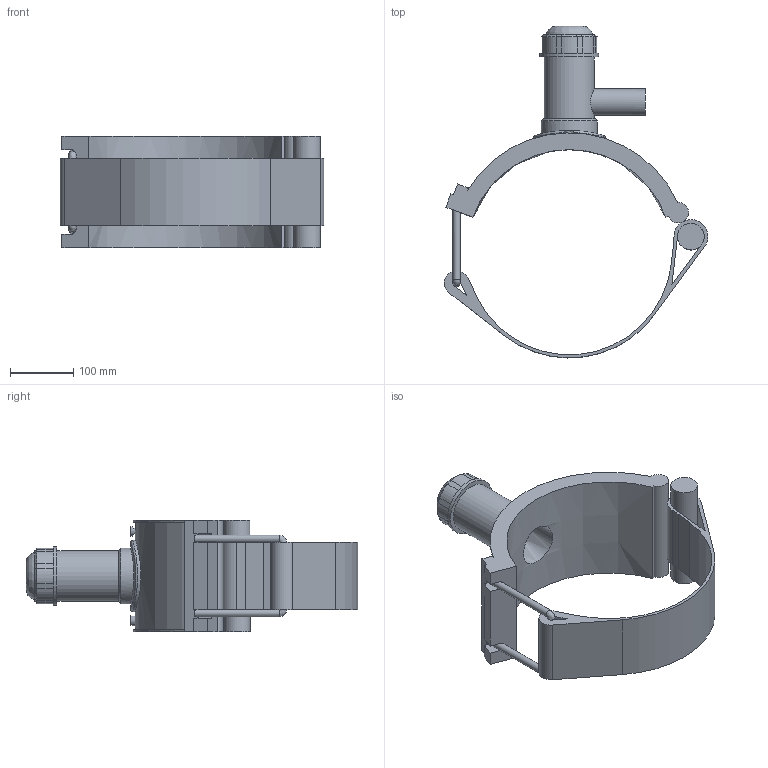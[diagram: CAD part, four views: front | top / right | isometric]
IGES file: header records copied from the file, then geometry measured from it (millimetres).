
Global section: file name: 5913BB03120013.ipt; native system: Autodesk Inventor 2019; preprocessor: unknown; author: KIM; date: 20210830.101045; units: millimetre
Bounding box: 415.47 x 523.04 x 176.02 mm (x, y, z)
Volume: 3272496.2 mm3; surface area: 491345.5 mm2
Topology: 2 solids, 2 shells, 123 faces, 310 edges, 192 vertices
Faces by surface type: plane 69, cylinder 28, revolution 12, cone 11, bspline 3
Full cylindrical faces by diameter (mm): 4 x2, 11.642 x2, 42.042 x1, 42.1 x1, 78.893 x1, 88.175 x1, 92.816 x1, 113.19 x1
